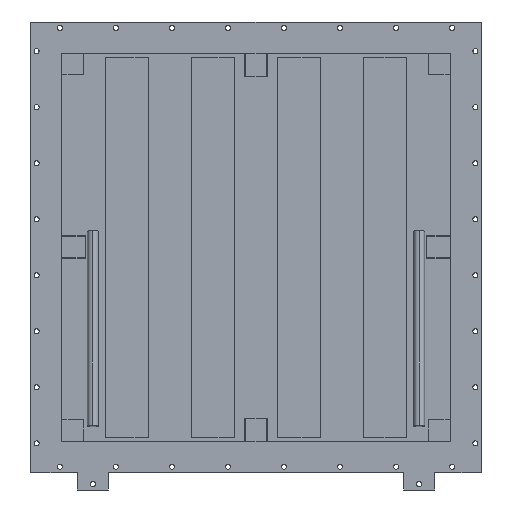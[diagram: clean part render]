
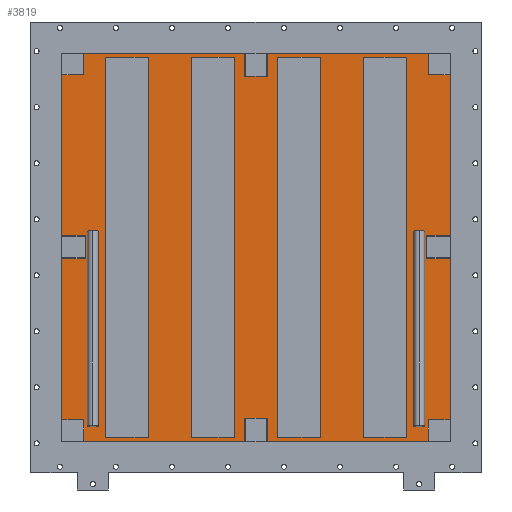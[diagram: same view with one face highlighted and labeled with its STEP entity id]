
A CAD part, front view. The second image highlights one B-rep face of the part: STEP entity #3819.
In plain terms, the highlighted planar face has unit normal (0, -1, 0).
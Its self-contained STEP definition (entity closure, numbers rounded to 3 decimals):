
#117=DIRECTION('',(0.,0.,-1.));
#118=VECTOR('',#117,979.);
#119=CARTESIAN_POINT('',(-387.5,77.,489.5));
#120=LINE('',#119,#118);
#121=DIRECTION('',(1.,0.,0.));
#122=VECTOR('',#121,110.);
#123=CARTESIAN_POINT('',(-387.5,77.,-489.5));
#124=LINE('',#123,#122);
#125=DIRECTION('',(0.,0.,1.));
#126=VECTOR('',#125,979.);
#127=CARTESIAN_POINT('',(-277.5,77.,-489.5));
#128=LINE('',#127,#126);
#129=DIRECTION('',(-1.,0.,0.));
#130=VECTOR('',#129,110.);
#131=CARTESIAN_POINT('',(-277.5,77.,489.5));
#132=LINE('',#131,#130);
#133=DIRECTION('',(0.,0.,-1.));
#134=VECTOR('',#133,979.);
#135=CARTESIAN_POINT('',(-165.95,77.,489.5));
#136=LINE('',#135,#134);
#137=DIRECTION('',(1.,0.,0.));
#138=VECTOR('',#137,110.);
#139=CARTESIAN_POINT('',(-165.95,77.,-489.5));
#140=LINE('',#139,#138);
#141=DIRECTION('',(0.,0.,1.));
#142=VECTOR('',#141,979.);
#143=CARTESIAN_POINT('',(-55.95,77.,-489.5));
#144=LINE('',#143,#142);
#145=DIRECTION('',(-1.,0.,0.));
#146=VECTOR('',#145,110.);
#147=CARTESIAN_POINT('',(-55.95,77.,489.5));
#148=LINE('',#147,#146);
#149=DIRECTION('',(0.,0.,-1.));
#150=VECTOR('',#149,979.);
#151=CARTESIAN_POINT('',(55.6,77.,489.5));
#152=LINE('',#151,#150);
#153=DIRECTION('',(1.,0.,0.));
#154=VECTOR('',#153,110.);
#155=CARTESIAN_POINT('',(55.6,77.,-489.5));
#156=LINE('',#155,#154);
#157=DIRECTION('',(0.,0.,1.));
#158=VECTOR('',#157,979.);
#159=CARTESIAN_POINT('',(165.6,77.,-489.5));
#160=LINE('',#159,#158);
#161=DIRECTION('',(-1.,0.,0.));
#162=VECTOR('',#161,110.);
#163=CARTESIAN_POINT('',(165.6,77.,489.5));
#164=LINE('',#163,#162);
#165=DIRECTION('',(-1.,0.,0.));
#166=VECTOR('',#165,110.);
#167=CARTESIAN_POINT('',(387.15,77.,489.5));
#168=LINE('',#167,#166);
#169=DIRECTION('',(0.,0.,-1.));
#170=VECTOR('',#169,979.);
#171=CARTESIAN_POINT('',(277.15,77.,489.5));
#172=LINE('',#171,#170);
#173=DIRECTION('',(1.,0.,0.));
#174=VECTOR('',#173,110.);
#175=CARTESIAN_POINT('',(277.15,77.,-489.5));
#176=LINE('',#175,#174);
#177=DIRECTION('',(0.,0.,1.));
#178=VECTOR('',#177,979.);
#179=CARTESIAN_POINT('',(387.15,77.,-489.5));
#180=LINE('',#179,#178);
#181=DIRECTION('',(0.,0.,-1.));
#182=VECTOR('',#181,1036.);
#183=CARTESIAN_POINT('',(518.,77.,515.5));
#184=LINE('',#183,#182);
#189=DIRECTION('',(1.,0.,0.));
#190=VECTOR('',#189,1036.);
#191=CARTESIAN_POINT('',(-518.,77.,515.5));
#192=LINE('',#191,#190);
#197=DIRECTION('',(0.,0.,1.));
#198=VECTOR('',#197,1036.);
#199=CARTESIAN_POINT('',(-518.,77.,-520.5));
#200=LINE('',#199,#198);
#205=DIRECTION('',(-1.,0.,0.));
#206=VECTOR('',#205,1036.);
#207=CARTESIAN_POINT('',(518.,77.,-520.5));
#208=LINE('',#207,#206);
#2965=CARTESIAN_POINT('',(518.,77.,515.5));
#2966=CARTESIAN_POINT('',(518.,77.,-520.5));
#2967=VERTEX_POINT('',#2965);
#2968=VERTEX_POINT('',#2966);
#2969=CARTESIAN_POINT('',(-518.,77.,-520.5));
#2970=VERTEX_POINT('',#2969);
#2971=CARTESIAN_POINT('',(-518.,77.,515.5));
#2972=VERTEX_POINT('',#2971);
#3445=CARTESIAN_POINT('',(-387.5,77.,489.5));
#3446=CARTESIAN_POINT('',(-387.5,77.,-489.5));
#3447=VERTEX_POINT('',#3445);
#3448=VERTEX_POINT('',#3446);
#3449=CARTESIAN_POINT('',(-277.5,77.,-489.5));
#3450=VERTEX_POINT('',#3449);
#3451=CARTESIAN_POINT('',(-277.5,77.,489.5));
#3452=VERTEX_POINT('',#3451);
#3453=CARTESIAN_POINT('',(-165.95,77.,489.5));
#3454=CARTESIAN_POINT('',(-165.95,77.,-489.5));
#3455=VERTEX_POINT('',#3453);
#3456=VERTEX_POINT('',#3454);
#3457=CARTESIAN_POINT('',(-55.95,77.,-489.5));
#3458=VERTEX_POINT('',#3457);
#3459=CARTESIAN_POINT('',(-55.95,77.,489.5));
#3460=VERTEX_POINT('',#3459);
#3461=CARTESIAN_POINT('',(55.6,77.,489.5));
#3462=CARTESIAN_POINT('',(55.6,77.,-489.5));
#3463=VERTEX_POINT('',#3461);
#3464=VERTEX_POINT('',#3462);
#3465=CARTESIAN_POINT('',(165.6,77.,-489.5));
#3466=VERTEX_POINT('',#3465);
#3467=CARTESIAN_POINT('',(165.6,77.,489.5));
#3468=VERTEX_POINT('',#3467);
#3469=CARTESIAN_POINT('',(387.15,77.,489.5));
#3470=CARTESIAN_POINT('',(277.15,77.,489.5));
#3471=VERTEX_POINT('',#3469);
#3472=VERTEX_POINT('',#3470);
#3473=CARTESIAN_POINT('',(277.15,77.,-489.5));
#3474=VERTEX_POINT('',#3473);
#3475=CARTESIAN_POINT('',(387.15,77.,-489.5));
#3476=VERTEX_POINT('',#3475);
#3765=CARTESIAN_POINT('',(0.,77.,0.));
#3766=DIRECTION('',(0.,1.,0.));
#3767=DIRECTION('',(0.,0.,-1.));
#3768=AXIS2_PLACEMENT_3D('',#3765,#3766,#3767);
#3769=PLANE('',#3768);
#3771=ORIENTED_EDGE('',*,*,#3770,.T.);
#3773=ORIENTED_EDGE('',*,*,#3772,.T.);
#3775=ORIENTED_EDGE('',*,*,#3774,.T.);
#3777=ORIENTED_EDGE('',*,*,#3776,.T.);
#3778=EDGE_LOOP('',(#3771,#3773,#3775,#3777));
#3779=FACE_OUTER_BOUND('',#3778,.F.);
#3781=ORIENTED_EDGE('',*,*,#3780,.T.);
#3783=ORIENTED_EDGE('',*,*,#3782,.T.);
#3785=ORIENTED_EDGE('',*,*,#3784,.T.);
#3787=ORIENTED_EDGE('',*,*,#3786,.T.);
#3788=EDGE_LOOP('',(#3781,#3783,#3785,#3787));
#3789=FACE_BOUND('',#3788,.F.);
#3791=ORIENTED_EDGE('',*,*,#3790,.T.);
#3793=ORIENTED_EDGE('',*,*,#3792,.T.);
#3795=ORIENTED_EDGE('',*,*,#3794,.T.);
#3797=ORIENTED_EDGE('',*,*,#3796,.T.);
#3798=EDGE_LOOP('',(#3791,#3793,#3795,#3797));
#3799=FACE_BOUND('',#3798,.F.);
#3800=ORIENTED_EDGE('',*,*,#3754,.T.);
#3802=ORIENTED_EDGE('',*,*,#3801,.T.);
#3804=ORIENTED_EDGE('',*,*,#3803,.T.);
#3806=ORIENTED_EDGE('',*,*,#3805,.T.);
#3807=EDGE_LOOP('',(#3800,#3802,#3804,#3806));
#3808=FACE_BOUND('',#3807,.F.);
#3810=ORIENTED_EDGE('',*,*,#3809,.T.);
#3812=ORIENTED_EDGE('',*,*,#3811,.T.);
#3814=ORIENTED_EDGE('',*,*,#3813,.T.);
#3816=ORIENTED_EDGE('',*,*,#3815,.T.);
#3817=EDGE_LOOP('',(#3810,#3812,#3814,#3816));
#3818=FACE_BOUND('',#3817,.F.);
#3754=EDGE_CURVE('',#3463,#3464,#152,.T.);
#3770=EDGE_CURVE('',#2967,#2968,#184,.T.);
#3772=EDGE_CURVE('',#2968,#2970,#208,.T.);
#3774=EDGE_CURVE('',#2970,#2972,#200,.T.);
#3776=EDGE_CURVE('',#2972,#2967,#192,.T.);
#3780=EDGE_CURVE('',#3447,#3448,#120,.T.);
#3782=EDGE_CURVE('',#3448,#3450,#124,.T.);
#3784=EDGE_CURVE('',#3450,#3452,#128,.T.);
#3786=EDGE_CURVE('',#3452,#3447,#132,.T.);
#3790=EDGE_CURVE('',#3455,#3456,#136,.T.);
#3792=EDGE_CURVE('',#3456,#3458,#140,.T.);
#3794=EDGE_CURVE('',#3458,#3460,#144,.T.);
#3796=EDGE_CURVE('',#3460,#3455,#148,.T.);
#3801=EDGE_CURVE('',#3464,#3466,#156,.T.);
#3803=EDGE_CURVE('',#3466,#3468,#160,.T.);
#3805=EDGE_CURVE('',#3468,#3463,#164,.T.);
#3809=EDGE_CURVE('',#3471,#3472,#168,.T.);
#3811=EDGE_CURVE('',#3472,#3474,#172,.T.);
#3813=EDGE_CURVE('',#3474,#3476,#176,.T.);
#3815=EDGE_CURVE('',#3476,#3471,#180,.T.);
#3819=ADVANCED_FACE('',(#3779,#3789,#3799,#3808,#3818),#3769,.F.);
